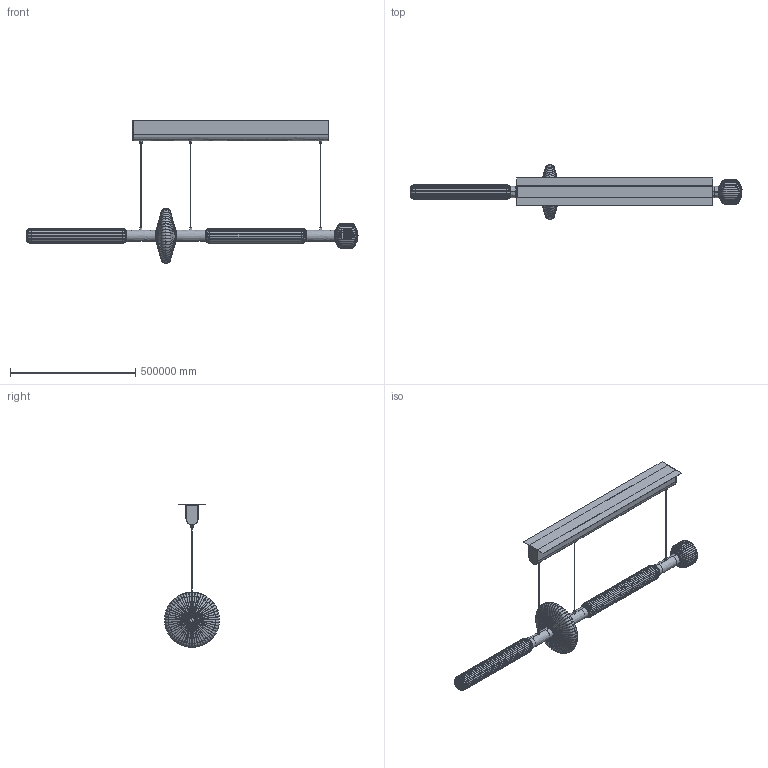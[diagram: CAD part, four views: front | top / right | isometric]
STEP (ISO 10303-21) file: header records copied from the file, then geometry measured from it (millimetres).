
FILE_DESCRIPTION(/* description */ (''),/* implementation_level */ '2;1');
FILE_NAME(/* name */ 'Cipher S UL',/* time_stamp */ '2019-01-31T10:14:51+01:00',/* author */ (''),/* organization */ (''),/* preprocessor_version */ 'ST-DEVELOPER v15',/* originating_system */ '',/* authorisation */ '');
FILE_SCHEMA (('AUTOMOTIVE_DESIGN'));
Products named in the file (6): Document; Glass disc; kování; Glass middle; Glass bottom; Glass side
Assembly tree (9 placements, depth 3):
  Document
    Glass disc
      kování  x2
    Glass middle
      kování
    Glass bottom
      kování
    Glass side
      kování
Bounding box: 1327435.35 x 219997.72 x 570008.85 mm (x, y, z)
Volume: 1569966363867148 mm3; surface area: 1265897164054.9 mm2
Topology: 27 solids, 27 shells, 1878 faces, 4586 edges, 2749 vertices
Faces by surface type: bspline 1467, plane 411
Entity records: 107835 total; most frequent: CARTESIAN_POINT 82955, ORIENTED_EDGE 8980, EDGE_CURVE 4490, VERTEX_POINT 2701, EDGE_LOOP 1875, ADVANCED_FACE 1842, FACE_OUTER_BOUND 1842, B_SPLINE_CURVE_WITH_KNOTS 1584
